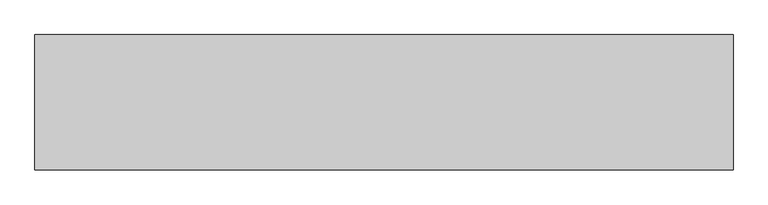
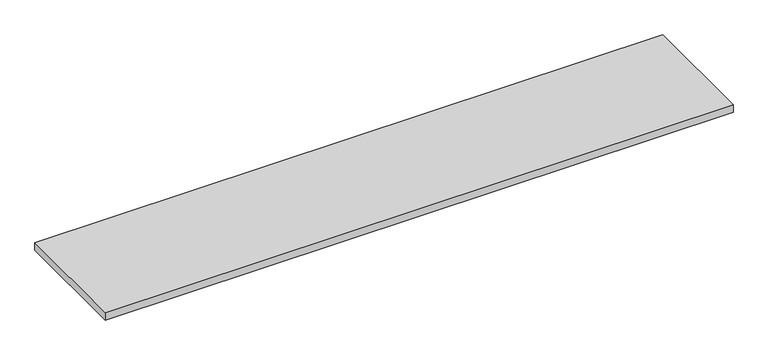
"""IFC4 building model written with IfcOpenShell, lengths in millimetres: furniture geometry, 台面 - 独立式 : 1220mm 深."""

from ifc_helpers import new_model, si_unit, frame, origin, place, context, project, spatial, polyline, outline, extrude, source, transform, mapped, element, save


def furniture_9f6ccaae(model_context):
    return source(origin(), model_context, "Body", "SweptSolid", [
        extrude(outline(polyline([(2025.6297104, 25.4), (2025.6297104, -600.0), (-1200.4622951, -600.0), (-1200.4622951, 25.4), (2025.6297104, 25.4)])), frame((0.0, 0.0, 860.0), z_axis=(0.0, 0.0, 1.0), x_axis=(1.0, 0.0, 0.0)), (0.0, 0.0, 1.0), 40.0),
    ])


if __name__ == "__main__":
    model = new_model("IFC4")
    model_context = context("Model", 3, world=origin())
    ifc_project = project(units=[si_unit("LENGTHUNIT", "METRE", prefix="MILLI")], contexts=[model_context])
    site = spatial("IfcSite", under=ifc_project)
    building = spatial("IfcBuilding", under=site)
    placement = place(None, origin())
    furniture_shape = furniture_9f6ccaae(model_context)
    element("IfcFurniture", 1, ObjectType="台面 - 独立式 : 1220mm 深", at=placement, inside=building, context=model_context, shape_type="MappedRepresentation", body=[
        mapped(furniture_shape, transform((0.0, 0.0, 0.0), x_axis=(1.0, 0.0, 0.0), y_axis=(0.0, 1.0, 0.0), z_axis=(0.0, 0.0, 1.0))),
    ])
    save(model, "model.ifc")
